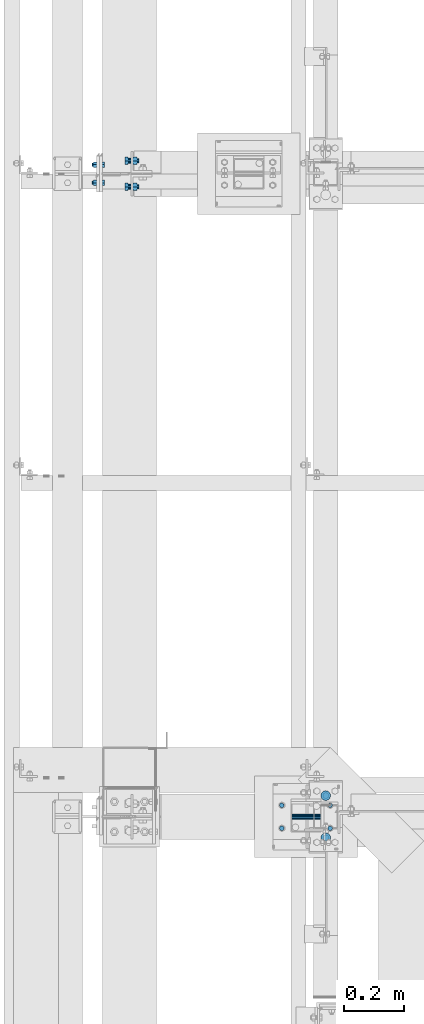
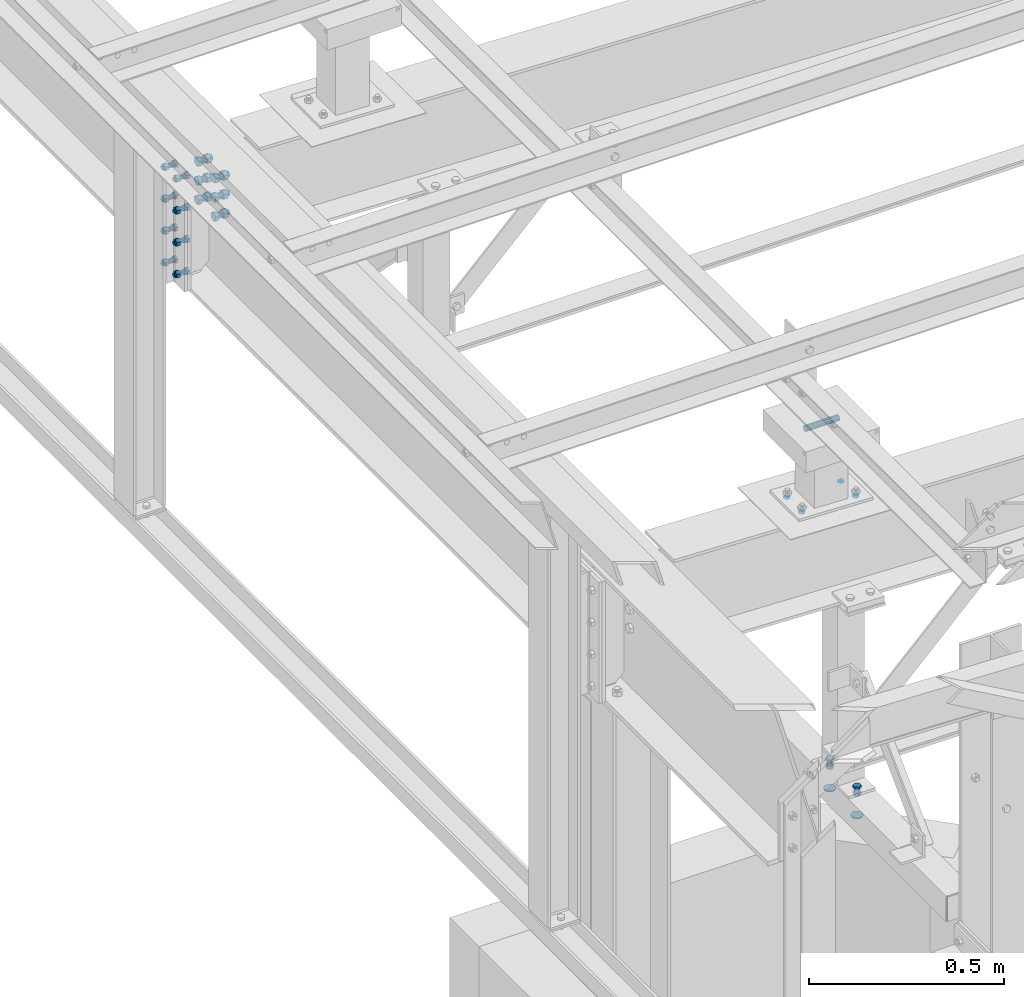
# One storey, part 4 of 3134: 7 mechanical fasteners, 6 elements without a shape of their own.
"""IFC2X3 building model written with IfcOpenShell, lengths in millimetres."""

from ifc_helpers import new_model, si_unit, frame, origin_with_axes, place, context, subcontext, project, spatial, faceted_brep, source, transform, mapped, material, type_object, element, aggregate, save


model = new_model("IFC2X3")

# Units and contexts
model_context = context("Model", 3, precision=1e-05, world=origin_with_axes())
body_context = subcontext(model_context, "Body", "Model", "MODEL_VIEW")
ifc_project = project(units=[si_unit("LENGTHUNIT", "METRE", prefix="MILLI"), si_unit("AREAUNIT", "SQUARE_METRE"), si_unit("VOLUMEUNIT", "CUBIC_METRE"), si_unit("MASSUNIT", "GRAM", prefix="KILO"), si_unit("TIMEUNIT", "SECOND"), si_unit("PLANEANGLEUNIT", "RADIAN"), si_unit("SOLIDANGLEUNIT", "STERADIAN"), si_unit("THERMODYNAMICTEMPERATUREUNIT", "DEGREE_CELSIUS"), si_unit("LUMINOUSINTENSITYUNIT", "LUMEN")], contexts=[model_context])

# Site, building, storey
site_placement = place(None, origin_with_axes())
site = spatial("IfcSite", under=ifc_project, at=site_placement, CompositionType="ELEMENT")
building_placement = place(site_placement, origin_with_axes())
building = spatial("IfcBuilding", under=site, at=building_placement, Name="Undefined", CompositionType="ELEMENT")
storey_placement = place(building_placement, origin_with_axes())
storey = spatial("IfcBuildingStorey", under=building, at=storey_placement, Name="Undefined", CompositionType="ELEMENT", Elevation=0.0)

# Assembly, mechanical fasteners
assembly_1_placement = place(storey_placement, origin_with_axes())
assembly_1 = element("IfcElementAssembly", 1, at=assembly_1_placement, inside=storey, AssemblyPlace="NOTDEFINED", PredefinedType="RIGID_FRAME")
ifc_material = material(Name="8.8")
mechanical_fastener_type = type_object("IfcMechanicalFastenerType", Name="Bolt assembly")
shared_shape_1 = source(origin_with_axes(), body_context, "Body", "Brep", [
    faceted_brep([(16.5, -3.0, 0.0), (14.289419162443, -3.0, 8.25000000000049), (8.24999999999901, -3.0, 14.2894191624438), (-1.70995436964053e-12, -3.0, 16.5), (-8.25000000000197, -3.0, 14.2894191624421), (-14.2894191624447, -3.0, 8.24999999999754), (-16.5, -3.0, -3.41990873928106e-12), (-14.2894191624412, -3.0, -8.25000000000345), (-8.24999999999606, -3.0, -14.2894191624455), (5.11154442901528e-12, -3.0, -16.5), (8.25000000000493, -3.0, -14.2894191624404), (14.2894191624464, -3.0, -8.24999999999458), (14.2894191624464, 0.1, -8.24999999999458), (8.25000000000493, 0.1, -14.2894191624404), (5.11154442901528e-12, 0.1, -16.5), (-8.24999999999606, 0.1, -14.2894191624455), (-14.2894191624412, 0.1, -8.25000000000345), (-16.5, 0.1, -3.41990873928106e-12), (-14.2894191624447, 0.1, 8.24999999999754), (-8.25000000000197, 0.1, 14.2894191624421), (-1.70995436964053e-12, 0.1, 16.5), (8.24999999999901, 0.1, 14.2894191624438), (14.289419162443, 0.1, 8.25000000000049), (16.5, 0.1, 0.0)], [[[0, 1, 2, 3, 4, 5, 6, 7, 8, 9, 10, 11]], [[12, 13, 14, 15, 16, 17, 18, 19, 20, 21, 22, 23]], [[0, 23, 22, 1]], [[1, 22, 21, 2]], [[2, 21, 20, 3]], [[3, 20, 19, 4]], [[4, 19, 18, 5]], [[5, 18, 17, 6]], [[6, 17, 16, 7]], [[7, 16, 15, 8]], [[8, 15, 14, 9]], [[9, 14, 13, 10]], [[10, 13, 12, 11]], [[11, 12, 23, 0]]]),
])
mechanical_fastener_1_placement = place(assembly_1_placement, frame((650.0, 11000.0, 3040.0), z_axis=(1.0, 0.0, 0.0), x_axis=(0.0, -1.0, 0.0)))
mechanical_fastener_1 = element("IfcMechanicalFastener", 2, at=mechanical_fastener_1_placement, type_object=mechanical_fastener_type, material=ifc_material, Name="Bolt assembly", NominalDiameter=30.0, NominalLength=3.0, context=body_context, shape_type="MappedRepresentation", body=[
    mapped(shared_shape_1, transform((0.0, 0.0, 0.0))),
    mapped(shared_shape_1, transform((140.0, 0.0, 0.0))),
])
shared_shape_2 = source(origin_with_axes(), body_context, "Body", "Brep", [
    faceted_brep([(10.9696551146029, -16.0, 0.0), (5.48482755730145, -16.0, 9.5), (-5.48482755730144, -16.0, 9.5), (-10.9696551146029, -16.0, 1.34339530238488e-15), (-5.48482755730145, -16.0, -9.5), (5.48482755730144, -16.0, -9.50000000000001), (5.48482755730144, -8.0, -9.50000000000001), (-5.48482755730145, -8.0, -9.5), (-10.9696551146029, -8.0, 1.34339530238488e-15), (-5.48482755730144, -8.0, 9.5), (5.48482755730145, -8.0, 9.5), (10.9696551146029, -8.0, 0.0), (6.0, -8.0, 0.0), (5.19615242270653, -8.0, 3.00000000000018), (2.99999999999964, -8.0, 5.19615242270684), (-6.21801588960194e-13, -8.0, 6.0), (-3.00000000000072, -8.0, 5.19615242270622), (-5.19615242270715, -8.0, 2.9999999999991), (-6.0, -8.0, -1.24360317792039e-12), (-5.19615242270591, -8.0, -3.00000000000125), (-2.99999999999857, -8.0, -5.19615242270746), (1.85874342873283e-12, -8.0, -6.0), (3.00000000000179, -8.0, -5.1961524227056), (5.19615242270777, -8.0, -2.99999999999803), (5.19615242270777, 17.0, -2.99999999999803), (3.00000000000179, 17.0, -5.1961524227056), (1.85874342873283e-12, 17.0, -6.0), (-2.99999999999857, 17.0, -5.19615242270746), (-5.19615242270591, 17.0, -3.00000000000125), (-6.0, 17.0, -1.24360317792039e-12), (-5.19615242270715, 17.0, 2.9999999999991), (-3.00000000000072, 17.0, 5.19615242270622), (-6.21801588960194e-13, 17.0, 6.0), (2.99999999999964, 17.0, 5.19615242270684), (5.19615242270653, 17.0, 3.00000000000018), (6.0, 17.0, 0.0), (10.9696551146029, 3.00000000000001, 0.0), (5.48482755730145, 3.00000000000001, 9.5), (-5.48482755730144, 3.00000000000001, 9.5), (-10.9696551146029, 3.00000000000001, 1.34339530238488e-15), (-5.48482755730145, 3.00000000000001, -9.5), (5.48482755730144, 3.00000000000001, -9.50000000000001), (5.48482755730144, 13.0, -9.50000000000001), (-5.48482755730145, 13.0, -9.5), (-10.9696551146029, 13.0, 1.34339530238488e-15), (-5.48482755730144, 13.0, 9.5), (5.48482755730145, 13.0, 9.5), (10.9696551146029, 13.0, 0.0)], [[[0, 1, 2, 3, 4, 5]], [[6, 7, 8, 9, 10, 11]], [[0, 11, 10, 1]], [[1, 10, 9, 2]], [[2, 9, 8, 3]], [[3, 8, 7, 4]], [[4, 7, 6, 5]], [[5, 6, 11, 0]], [[12, 13, 14, 15, 16, 17, 18, 19, 20, 21, 22, 23]], [[24, 25, 26, 27, 28, 29, 30, 31, 32, 33, 34, 35]], [[12, 35, 34, 13]], [[13, 34, 33, 14]], [[14, 33, 32, 15]], [[15, 32, 31, 16]], [[16, 31, 30, 17]], [[17, 30, 29, 18]], [[18, 29, 28, 19]], [[19, 28, 27, 20]], [[20, 27, 26, 21]], [[21, 26, 25, 22]], [[22, 25, 24, 23]], [[23, 24, 35, 12]], [[36, 37, 38, 39, 40, 41]], [[42, 43, 44, 45, 46, 47]], [[36, 47, 46, 37]], [[37, 46, 45, 38]], [[38, 45, 44, 39]], [[39, 44, 43, 40]], [[40, 43, 42, 41]], [[41, 42, 47, 36]]]),
    faceted_brep([(7.0, -7.9, 0.0), (6.06217782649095, -7.9, 3.50000000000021), (3.49999999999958, -7.9, 6.06217782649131), (-7.25435187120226e-13, -7.9, 7.0), (-3.50000000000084, -7.9, 6.06217782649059), (-6.06217782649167, -7.9, 3.49999999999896), (-7.0, -7.9, -1.45087037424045e-12), (-6.06217782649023, -7.9, -3.50000000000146), (-3.49999999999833, -7.9, -6.06217782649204), (2.1685340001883e-12, -7.9, -7.0), (3.50000000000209, -7.9, -6.06217782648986), (6.0621778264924, -7.9, -3.4999999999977), (6.0621778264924, 0.0999999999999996, -3.4999999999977), (3.50000000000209, 0.0999999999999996, -6.06217782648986), (2.1685340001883e-12, 0.0999999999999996, -7.0), (-3.49999999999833, 0.0999999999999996, -6.06217782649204), (-6.06217782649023, 0.0999999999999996, -3.50000000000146), (-7.0, 0.0999999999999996, -1.45087037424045e-12), (-6.06217782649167, 0.0999999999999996, 3.49999999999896), (-3.50000000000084, 0.0999999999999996, 6.06217782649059), (-7.25435187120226e-13, 0.0999999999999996, 7.0), (3.49999999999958, 0.0999999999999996, 6.06217782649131), (6.06217782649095, 0.0999999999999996, 3.50000000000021), (7.0, 0.0999999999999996, 0.0), (7.0, -0.1, 0.0), (6.06217782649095, -0.1, 3.50000000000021), (3.49999999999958, -0.1, 6.06217782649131), (-7.25435187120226e-13, -0.1, 7.0), (-3.50000000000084, -0.1, 6.06217782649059), (-6.06217782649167, -0.1, 3.49999999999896), (-7.0, -0.1, -1.45087037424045e-12), (-6.06217782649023, -0.1, -3.50000000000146), (-3.49999999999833, -0.1, -6.06217782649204), (2.1685340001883e-12, -0.1, -7.0), (3.50000000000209, -0.1, -6.06217782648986), (6.0621778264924, -0.1, -3.4999999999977), (6.0621778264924, 3.0, -3.4999999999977), (3.50000000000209, 3.0, -6.06217782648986), (2.1685340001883e-12, 3.0, -7.0), (-3.49999999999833, 3.0, -6.06217782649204), (-6.06217782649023, 3.0, -3.50000000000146), (-7.0, 3.0, -1.45087037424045e-12), (-6.06217782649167, 3.0, 3.49999999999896), (-3.50000000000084, 3.0, 6.06217782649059), (-7.25435187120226e-13, 3.0, 7.0), (3.49999999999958, 3.0, 6.06217782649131), (6.06217782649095, 3.0, 3.50000000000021), (7.0, 3.0, 0.0)], [[[0, 1, 2, 3, 4, 5, 6, 7, 8, 9, 10, 11]], [[12, 13, 14, 15, 16, 17, 18, 19, 20, 21, 22, 23]], [[0, 23, 22, 1]], [[1, 22, 21, 2]], [[2, 21, 20, 3]], [[3, 20, 19, 4]], [[4, 19, 18, 5]], [[5, 18, 17, 6]], [[6, 17, 16, 7]], [[7, 16, 15, 8]], [[8, 15, 14, 9]], [[9, 14, 13, 10]], [[10, 13, 12, 11]], [[11, 12, 23, 0]], [[24, 25, 26, 27, 28, 29, 30, 31, 32, 33, 34, 35]], [[36, 37, 38, 39, 40, 41, 42, 43, 44, 45, 46, 47]], [[24, 47, 46, 25]], [[25, 46, 45, 26]], [[26, 45, 44, 27]], [[27, 44, 43, 28]], [[28, 43, 42, 29]], [[29, 42, 41, 30]], [[30, 41, 40, 31]], [[31, 40, 39, 32]], [[32, 39, 38, 33]], [[33, 38, 37, 34]], [[34, 37, 36, 35]], [[35, 36, 47, 24]]]),
])
mechanical_fastener_2_placement = place(assembly_1_placement, frame((650.0, 11000.0, 3120.0), z_axis=(1.0, 0.0, 0.0), x_axis=(0.0, -1.0, 0.0)))
mechanical_fastener_2 = element("IfcMechanicalFastener", 3, at=mechanical_fastener_2_placement, type_object=mechanical_fastener_type, material=ifc_material, Name="Bolt assembly", NominalDiameter=12.0, NominalLength=25.0, context=body_context, shape_type="MappedRepresentation", body=[
    mapped(shared_shape_2, transform((0.0, 0.0, 0.0))),
    mapped(shared_shape_2, transform((140.0, 0.0, 0.0))),
])
aggregate(assembly_1, [mechanical_fastener_1, mechanical_fastener_2])

# Assembly, mechanical fastener
assembly_2_placement = place(storey_placement, origin_with_axes())
assembly_2 = element("IfcElementAssembly", 4, at=assembly_2_placement, inside=storey, Name="IPE400", AssemblyPlace="NOTDEFINED", PredefinedType="RIGID_FRAME")
shared_shape_3 = source(origin_with_axes(), body_context, "Body", "Brep", [
    faceted_brep([(10.9696551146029, -18.0, 0.0), (5.48482755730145, -18.0, 9.5), (-5.48482755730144, -18.0, 9.5), (-10.9696551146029, -18.0, 1.34339530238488e-15), (-5.48482755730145, -18.0, -9.5), (5.48482755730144, -18.0, -9.50000000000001), (5.48482755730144, -10.0, -9.50000000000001), (-5.48482755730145, -10.0, -9.5), (-10.9696551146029, -10.0, 1.34339530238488e-15), (-5.48482755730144, -10.0, 9.5), (5.48482755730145, -10.0, 9.5), (10.9696551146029, -10.0, 0.0), (6.0, -10.0, 0.0), (5.19615242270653, -10.0, 3.00000000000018), (2.99999999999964, -10.0, 5.19615242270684), (-6.21801588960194e-13, -10.0, 6.0), (-3.00000000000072, -10.0, 5.19615242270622), (-5.19615242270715, -10.0, 2.9999999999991), (-6.0, -10.0, -1.24360317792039e-12), (-5.19615242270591, -10.0, -3.00000000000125), (-2.99999999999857, -10.0, -5.19615242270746), (1.85874342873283e-12, -10.0, -6.0), (3.00000000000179, -10.0, -5.1961524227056), (5.19615242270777, -10.0, -2.99999999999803), (5.19615242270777, 24.9999999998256, -2.99999999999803), (3.00000000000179, 24.9999999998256, -5.1961524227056), (1.85874342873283e-12, 24.9999999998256, -6.0), (-2.99999999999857, 24.9999999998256, -5.19615242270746), (-5.19615242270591, 24.9999999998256, -3.00000000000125), (-6.0, 24.9999999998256, -1.24360317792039e-12), (-5.19615242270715, 24.9999999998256, 2.9999999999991), (-3.00000000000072, 24.9999999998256, 5.19615242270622), (-6.21801588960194e-13, 24.9999999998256, 6.0), (2.99999999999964, 24.9999999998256, 5.19615242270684), (5.19615242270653, 24.9999999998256, 3.00000000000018), (6.0, 24.9999999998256, 0.0), (10.9696551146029, 10.0, 0.0), (5.48482755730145, 10.0, 9.5), (-5.48482755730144, 10.0, 9.5), (-10.9696551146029, 10.0, 1.34339530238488e-15), (-5.48482755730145, 10.0, -9.5), (5.48482755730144, 10.0, -9.50000000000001), (5.48482755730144, 20.0, -9.50000000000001), (-5.48482755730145, 20.0, -9.5), (-10.9696551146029, 20.0, 1.34339530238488e-15), (-5.48482755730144, 20.0, 9.5), (5.48482755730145, 20.0, 9.5), (10.9696551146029, 20.0, 0.0)], [[[0, 1, 2, 3, 4, 5]], [[6, 7, 8, 9, 10, 11]], [[0, 11, 10, 1]], [[1, 10, 9, 2]], [[2, 9, 8, 3]], [[3, 8, 7, 4]], [[4, 7, 6, 5]], [[5, 6, 11, 0]], [[12, 13, 14, 15, 16, 17, 18, 19, 20, 21, 22, 23]], [[24, 25, 26, 27, 28, 29, 30, 31, 32, 33, 34, 35]], [[12, 35, 34, 13]], [[13, 34, 33, 14]], [[14, 33, 32, 15]], [[15, 32, 31, 16]], [[16, 31, 30, 17]], [[17, 30, 29, 18]], [[18, 29, 28, 19]], [[19, 28, 27, 20]], [[20, 27, 26, 21]], [[21, 26, 25, 22]], [[22, 25, 24, 23]], [[23, 24, 35, 12]], [[36, 37, 38, 39, 40, 41]], [[42, 43, 44, 45, 46, 47]], [[36, 47, 46, 37]], [[37, 46, 45, 38]], [[38, 45, 44, 39]], [[39, 44, 43, 40]], [[40, 43, 42, 41]], [[41, 42, 47, 36]]]),
    faceted_brep([(7.0, -0.1, 0.0), (6.06217782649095, -0.1, 3.50000000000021), (3.49999999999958, -0.1, 6.06217782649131), (-7.25435187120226e-13, -0.1, 7.0), (-3.50000000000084, -0.1, 6.06217782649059), (-6.06217782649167, -0.1, 3.49999999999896), (-7.0, -0.1, -1.45087037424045e-12), (-6.06217782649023, -0.1, -3.50000000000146), (-3.49999999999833, -0.1, -6.06217782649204), (2.1685340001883e-12, -0.1, -7.0), (3.50000000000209, -0.1, -6.06217782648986), (6.0621778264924, -0.1, -3.4999999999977), (6.0621778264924, 10.0, -3.4999999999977), (3.50000000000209, 10.0, -6.06217782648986), (2.1685340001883e-12, 10.0, -7.0), (-3.49999999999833, 10.0, -6.06217782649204), (-6.06217782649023, 10.0, -3.50000000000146), (-7.0, 10.0, -1.45087037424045e-12), (-6.06217782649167, 10.0, 3.49999999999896), (-3.50000000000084, 10.0, 6.06217782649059), (-7.25435187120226e-13, 10.0, 7.0), (3.49999999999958, 10.0, 6.06217782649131), (6.06217782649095, 10.0, 3.50000000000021), (7.0, 10.0, 0.0), (7.0, -9.89999913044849, 0.0), (6.06217782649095, -9.89999913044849, 3.50000000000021), (3.49999999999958, -9.89999913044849, 6.06217782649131), (-7.25435187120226e-13, -9.89999913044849, 7.0), (-3.50000000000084, -9.89999913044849, 6.06217782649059), (-6.06217782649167, -9.89999913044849, 3.49999999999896), (-7.0, -9.89999913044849, -1.45087037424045e-12), (-6.06217782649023, -9.89999913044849, -3.50000000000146), (-3.49999999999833, -9.89999913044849, -6.06217782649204), (2.1685340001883e-12, -9.89999913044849, -7.0), (3.50000000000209, -9.89999913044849, -6.06217782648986), (6.0621778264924, -9.89999913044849, -3.4999999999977), (6.0621778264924, 0.0999999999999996, -3.4999999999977), (3.50000000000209, 0.0999999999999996, -6.06217782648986), (2.1685340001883e-12, 0.0999999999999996, -7.0), (-3.49999999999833, 0.0999999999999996, -6.06217782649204), (-6.06217782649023, 0.0999999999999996, -3.50000000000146), (-7.0, 0.0999999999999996, -1.45087037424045e-12), (-6.06217782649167, 0.0999999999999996, 3.49999999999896), (-3.50000000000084, 0.0999999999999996, 6.06217782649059), (-7.25435187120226e-13, 0.0999999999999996, 7.0), (3.49999999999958, 0.0999999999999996, 6.06217782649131), (6.06217782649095, 0.0999999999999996, 3.50000000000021), (7.0, 0.0999999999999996, 0.0)], [[[0, 1, 2, 3, 4, 5, 6, 7, 8, 9, 10, 11]], [[12, 13, 14, 15, 16, 17, 18, 19, 20, 21, 22, 23]], [[0, 23, 22, 1]], [[1, 22, 21, 2]], [[2, 21, 20, 3]], [[3, 20, 19, 4]], [[4, 19, 18, 5]], [[5, 18, 17, 6]], [[6, 17, 16, 7]], [[7, 16, 15, 8]], [[8, 15, 14, 9]], [[9, 14, 13, 10]], [[10, 13, 12, 11]], [[11, 12, 23, 0]], [[24, 25, 26, 27, 28, 29, 30, 31, 32, 33, 34, 35]], [[36, 37, 38, 39, 40, 41, 42, 43, 44, 45, 46, 47]], [[24, 47, 46, 25]], [[25, 46, 45, 26]], [[26, 45, 44, 27]], [[27, 44, 43, 28]], [[28, 43, 42, 29]], [[29, 42, 41, 30]], [[30, 41, 40, 31]], [[31, 40, 39, 32]], [[32, 39, 38, 33]], [[33, 38, 37, 34]], [[34, 37, 36, 35]], [[35, 36, 47, 24]]]),
])
mechanical_fastener_3_placement = place(assembly_2_placement, frame((-100.0, 13060.0, 3990.0), z_axis=(0.0, 1.0, 0.0), x_axis=(0.0, 0.0, -1.0)))
mechanical_fastener_3 = element("IfcMechanicalFastener", 5, at=mechanical_fastener_3_placement, type_object=mechanical_fastener_type, material=ifc_material, Name="Bolt assembly", NominalDiameter=12.0, NominalLength=35.0, context=body_context, shape_type="MappedRepresentation", body=[
    mapped(shared_shape_3, transform((0.0, 4.54747350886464e-13, -30.0000000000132))),
    mapped(shared_shape_3, transform((100.0, 0.0, -30.0))),
    mapped(shared_shape_3, transform((200.0, 0.0, -30.0))),
    mapped(shared_shape_3, transform((300.0, 0.0, -30.0))),
    mapped(shared_shape_3, transform((0.0, 4.54747350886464e-13, 30.0000000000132))),
    mapped(shared_shape_3, transform((100.0, 0.0, 30.0))),
    mapped(shared_shape_3, transform((200.0, 0.0, 30.0))),
    mapped(shared_shape_3, transform((300.0, 0.0, 30.0))),
])
aggregate(assembly_2, [mechanical_fastener_3])

assembly_3_placement = place(storey_placement, origin_with_axes())
assembly_3 = element("IfcElementAssembly", 6, at=assembly_3_placement, inside=storey, AssemblyPlace="NOTDEFINED", PredefinedType="RIGID_FRAME")
shared_shape_4 = source(origin_with_axes(), body_context, "Body", "Brep", [
    faceted_brep([(13.856406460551, -18.5936482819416, 0.0), (6.92820323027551, -18.5936482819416, 12.0), (-6.92820323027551, -18.5936482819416, 12.0), (-13.856406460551, -18.5936482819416, 1.69692038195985e-15), (-6.92820323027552, -18.5936482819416, -12.0), (6.9282032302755, -18.5936482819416, -12.0), (6.9282032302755, -8.59364828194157, -12.0), (-6.92820323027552, -8.59364828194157, -12.0), (-13.856406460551, -8.59364828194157, 1.69692038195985e-15), (-6.92820323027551, -8.59364828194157, 12.0), (6.92820323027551, -8.59364828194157, 12.0), (13.856406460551, -8.59364828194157, 0.0), (8.0, -8.59364828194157, 0.0), (6.92820323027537, -8.59364828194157, 4.00000000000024), (3.99999999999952, -8.59364828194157, 6.92820323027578), (-8.29068785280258e-13, -8.59364828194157, 8.0), (-4.00000000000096, -8.59364828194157, 6.92820323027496), (-6.9282032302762, -8.59364828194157, 3.99999999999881), (-8.0, -8.59364828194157, -1.65813757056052e-12), (-6.92820323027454, -8.59364828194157, -4.00000000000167), (-3.99999999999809, -8.59364828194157, -6.92820323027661), (2.47832457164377e-12, -8.59364828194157, -8.0), (4.00000000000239, -8.59364828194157, -6.92820323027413), (6.92820323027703, -8.59364828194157, -3.99999999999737), (6.92820323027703, 26.4063517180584, -3.99999999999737), (4.00000000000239, 26.4063517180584, -6.92820323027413), (2.47832457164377e-12, 26.4063517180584, -8.0), (-3.99999999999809, 26.4063517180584, -6.92820323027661), (-6.92820323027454, 26.4063517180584, -4.00000000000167), (-8.0, 26.4063517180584, -1.65813757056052e-12), (-6.9282032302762, 26.4063517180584, 3.99999999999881), (-4.00000000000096, 26.4063517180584, 6.92820323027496), (-8.29068785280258e-13, 26.4063517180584, 8.0), (3.99999999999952, 26.4063517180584, 6.92820323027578), (6.92820323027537, 26.4063517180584, 4.00000000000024), (8.0, 26.4063517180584, 0.0), (13.856406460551, 7.0, 0.0), (6.92820323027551, 7.0, 12.0), (-6.92820323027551, 7.0, 12.0), (-13.856406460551, 7.0, 1.69692038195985e-15), (-6.92820323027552, 7.0, -12.0), (6.9282032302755, 7.0, -12.0), (6.9282032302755, 20.0, -12.0), (-6.92820323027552, 20.0, -12.0), (-13.856406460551, 20.0, 1.69692038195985e-15), (-6.92820323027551, 20.0, 12.0), (6.92820323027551, 20.0, 12.0), (13.856406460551, 20.0, 0.0)], [[[0, 1, 2, 3, 4, 5]], [[6, 7, 8, 9, 10, 11]], [[0, 11, 10, 1]], [[1, 10, 9, 2]], [[2, 9, 8, 3]], [[3, 8, 7, 4]], [[4, 7, 6, 5]], [[5, 6, 11, 0]], [[12, 13, 14, 15, 16, 17, 18, 19, 20, 21, 22, 23]], [[24, 25, 26, 27, 28, 29, 30, 31, 32, 33, 34, 35]], [[12, 35, 34, 13]], [[13, 34, 33, 14]], [[14, 33, 32, 15]], [[15, 32, 31, 16]], [[16, 31, 30, 17]], [[17, 30, 29, 18]], [[18, 29, 28, 19]], [[19, 28, 27, 20]], [[20, 27, 26, 21]], [[21, 26, 25, 22]], [[22, 25, 24, 23]], [[23, 24, 35, 12]], [[36, 37, 38, 39, 40, 41]], [[42, 43, 44, 45, 46, 47]], [[36, 47, 46, 37]], [[37, 46, 45, 38]], [[38, 45, 44, 39]], [[39, 44, 43, 40]], [[40, 43, 42, 41]], [[41, 42, 47, 36]]]),
    faceted_brep([(9.0, -8.49364828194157, 0.0), (7.79422863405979, -8.49364828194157, 4.50000000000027), (4.49999999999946, -8.49364828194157, 7.79422863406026), (-9.3270238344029e-13, -8.49364828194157, 9.0), (-4.50000000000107, -8.49364828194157, 7.79422863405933), (-7.79422863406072, -8.49364828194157, 4.49999999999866), (-9.0, -8.49364828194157, -1.86540476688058e-12), (-7.79422863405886, -8.49364828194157, -4.50000000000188), (-4.49999999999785, -8.49364828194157, -7.79422863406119), (2.78811514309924e-12, -8.49364828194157, -9.0), (4.50000000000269, -8.49364828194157, -7.7942286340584), (7.79422863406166, -8.49364828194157, -4.49999999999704), (7.79422863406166, 0.10635209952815, -4.49999999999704), (4.50000000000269, 0.10635209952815, -7.7942286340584), (2.78811514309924e-12, 0.10635209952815, -9.0), (-4.49999999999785, 0.10635209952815, -7.79422863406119), (-7.79422863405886, 0.10635209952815, -4.50000000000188), (-9.0, 0.10635209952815, -1.86540476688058e-12), (-7.79422863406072, 0.10635209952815, 4.49999999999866), (-4.50000000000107, 0.10635209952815, 7.79422863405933), (-9.3270238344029e-13, 0.10635209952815, 9.0), (4.49999999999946, 0.10635209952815, 7.79422863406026), (7.79422863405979, 0.10635209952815, 4.50000000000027), (9.0, 0.10635209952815, 0.0), (9.0, -0.1, 0.0), (7.79422863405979, -0.1, 4.50000000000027), (4.49999999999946, -0.1, 7.79422863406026), (-9.3270238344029e-13, -0.1, 9.0), (-4.50000000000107, -0.1, 7.79422863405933), (-7.79422863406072, -0.1, 4.49999999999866), (-9.0, -0.1, -1.86540476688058e-12), (-7.79422863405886, -0.1, -4.50000000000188), (-4.49999999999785, -0.1, -7.79422863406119), (2.78811514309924e-12, -0.1, -9.0), (4.50000000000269, -0.1, -7.7942286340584), (7.79422863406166, -0.1, -4.49999999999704), (7.79422863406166, 7.0, -4.49999999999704), (4.50000000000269, 7.0, -7.7942286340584), (2.78811514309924e-12, 7.0, -9.0), (-4.49999999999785, 7.0, -7.79422863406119), (-7.79422863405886, 7.0, -4.50000000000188), (-9.0, 7.0, -1.86540476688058e-12), (-7.79422863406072, 7.0, 4.49999999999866), (-4.50000000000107, 7.0, 7.79422863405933), (-9.3270238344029e-13, 7.0, 9.0), (4.49999999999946, 7.0, 7.79422863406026), (7.79422863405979, 7.0, 4.50000000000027), (9.0, 7.0, 0.0)], [[[0, 1, 2, 3, 4, 5, 6, 7, 8, 9, 10, 11]], [[12, 13, 14, 15, 16, 17, 18, 19, 20, 21, 22, 23]], [[0, 23, 22, 1]], [[1, 22, 21, 2]], [[2, 21, 20, 3]], [[3, 20, 19, 4]], [[4, 19, 18, 5]], [[5, 18, 17, 6]], [[6, 17, 16, 7]], [[7, 16, 15, 8]], [[8, 15, 14, 9]], [[9, 14, 13, 10]], [[10, 13, 12, 11]], [[11, 12, 23, 0]], [[24, 25, 26, 27, 28, 29, 30, 31, 32, 33, 34, 35]], [[36, 37, 38, 39, 40, 41, 42, 43, 44, 45, 46, 47]], [[24, 47, 46, 25]], [[25, 46, 45, 26]], [[26, 45, 44, 27]], [[27, 44, 43, 28]], [[28, 43, 42, 29]], [[29, 42, 41, 30]], [[30, 41, 40, 31]], [[31, 40, 39, 32]], [[32, 39, 38, 33]], [[33, 38, 37, 34]], [[34, 37, 36, 35]], [[35, 36, 47, 24]]]),
])
mechanical_fastener_4_placement = place(assembly_3_placement, frame((4.29364809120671, 13103.04, 3841.86727512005), z_axis=(0.0, 1.0, 0.0), x_axis=(0.0, 0.0, 1.0)))
mechanical_fastener_4 = element("IfcMechanicalFastener", 7, at=mechanical_fastener_4_placement, type_object=mechanical_fastener_type, material=ifc_material, Name="Bolt assembly", NominalDiameter=16.0, NominalLength=35.0, context=body_context, shape_type="MappedRepresentation", body=[
    mapped(shared_shape_4, transform((0.0, 0.0, 0.0))),
    mapped(shared_shape_4, transform((59.9999999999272, 0.0, 5.40239852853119e-10))),
    mapped(shared_shape_4, transform((120.0, 0.0, 0.0))),
])
aggregate(assembly_3, [mechanical_fastener_4])

assembly_4_placement = place(storey_placement, origin_with_axes())
assembly_4 = element("IfcElementAssembly", 8, at=assembly_4_placement, inside=storey, AssemblyPlace="NOTDEFINED", PredefinedType="RIGID_FRAME")
mechanical_fastener_5_placement = place(assembly_4_placement, frame((4.29364809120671, 13016.96, 3841.86727512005), z_axis=(0.0, 1.0, 0.0), x_axis=(0.0, 0.0, 1.0)))
mechanical_fastener_5 = element("IfcMechanicalFastener", 9, at=mechanical_fastener_5_placement, type_object=mechanical_fastener_type, material=ifc_material, Name="Bolt assembly", NominalDiameter=16.0, NominalLength=35.0, context=body_context, shape_type="MappedRepresentation", body=[
    mapped(shared_shape_4, transform((0.0, 0.0, 0.0))),
    mapped(shared_shape_4, transform((59.9999999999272, 0.0, 5.40239852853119e-10))),
    mapped(shared_shape_4, transform((120.0, 0.0, 0.0))),
])
aggregate(assembly_4, [mechanical_fastener_5])

assembly_5_placement = place(storey_placement, origin_with_axes())
assembly_5 = element("IfcElementAssembly", 10, at=assembly_5_placement, inside=storey, AssemblyPlace="NOTDEFINED", PredefinedType="RIGID_FRAME")
shared_shape_5 = source(origin_with_axes(), body_context, "Body", "Brep", [
    faceted_brep([(7.0, 13.0000253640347, 0.0), (6.06217782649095, 13.0000253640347, 3.50000000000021), (3.49999999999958, 13.0000253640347, 6.06217782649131), (-7.25435187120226e-13, 13.0000253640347, 7.0), (-3.50000000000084, 13.0000253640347, 6.06217782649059), (-6.06217782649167, 13.0000253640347, 3.49999999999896), (-7.0, 13.0000253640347, -1.45087037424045e-12), (-6.06217782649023, 13.0000253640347, -3.50000000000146), (-3.49999999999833, 13.0000253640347, -6.06217782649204), (2.1685340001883e-12, 13.0000253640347, -7.0), (3.50000000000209, 13.0000253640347, -6.06217782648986), (6.0621778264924, 13.0000253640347, -3.4999999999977), (6.0621778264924, 15.0999999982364, -3.4999999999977), (3.50000000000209, 15.0999999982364, -6.06217782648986), (2.1685340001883e-12, 15.0999999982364, -7.0), (-3.49999999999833, 15.0999999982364, -6.06217782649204), (-6.06217782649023, 15.0999999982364, -3.50000000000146), (-7.0, 15.0999999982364, -1.45087037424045e-12), (-6.06217782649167, 15.0999999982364, 3.49999999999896), (-3.50000000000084, 15.0999999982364, 6.06217782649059), (-7.25435187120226e-13, 15.0999999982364, 7.0), (3.49999999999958, 15.0999999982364, 6.06217782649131), (6.06217782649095, 15.0999999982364, 3.50000000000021), (7.0, 15.0999999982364, 0.0)], [[[0, 1, 2, 3, 4, 5, 6, 7, 8, 9, 10, 11]], [[12, 13, 14, 15, 16, 17, 18, 19, 20, 21, 22, 23]], [[0, 23, 22, 1]], [[1, 22, 21, 2]], [[2, 21, 20, 3]], [[3, 20, 19, 4]], [[4, 19, 18, 5]], [[5, 18, 17, 6]], [[6, 17, 16, 7]], [[7, 16, 15, 8]], [[8, 15, 14, 9]], [[9, 14, 13, 10]], [[10, 13, 12, 11]], [[11, 12, 23, 0]]]),
])
mechanical_fastener_6_placement = place(assembly_5_placement, frame((584.193186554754, 10967.9999999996, 4006.54000668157), z_axis=(-0.999387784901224, 0.0, 0.0349865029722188), x_axis=(0.0, -1.0, 0.0)))
mechanical_fastener_6 = element("IfcMechanicalFastener", 11, at=mechanical_fastener_6_placement, type_object=mechanical_fastener_type, material=ifc_material, Name="Bolt assembly", NominalDiameter=12.0, NominalLength=2.0, context=body_context, shape_type="MappedRepresentation", body=[
    mapped(shared_shape_5, transform((0.0, -5.32963895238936e-10, -79.9999999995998))),
    mapped(shared_shape_5, transform((76.0, -5.32963895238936e-10, -79.9999999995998))),
    mapped(shared_shape_5, transform((0.0, 5.3114490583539e-10, 79.9999999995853))),
    mapped(shared_shape_5, transform((76.0, 5.3114490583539e-10, 79.9999999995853))),
])
aggregate(assembly_5, [mechanical_fastener_6])

assembly_6_placement = place(storey_placement, origin_with_axes())
assembly_6 = element("IfcElementAssembly", 12, at=assembly_6_placement, inside=storey, AssemblyPlace="NOTDEFINED", PredefinedType="RIGID_FRAME")
shared_shape_6 = source(origin_with_axes(), body_context, "Body", "Brep", [
    faceted_brep([(9.0, -50.0, 0.0), (7.79422863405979, -50.0, 4.50000000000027), (4.49999999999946, -50.0, 7.79422863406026), (-9.3270238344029e-13, -50.0, 9.0), (-4.50000000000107, -50.0, 7.79422863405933), (-7.79422863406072, -50.0, 4.49999999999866), (-9.0, -50.0, -1.86540476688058e-12), (-7.79422863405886, -50.0, -4.50000000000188), (-4.49999999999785, -50.0, -7.79422863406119), (2.78811514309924e-12, -50.0, -9.0), (4.50000000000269, -50.0, -7.7942286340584), (7.79422863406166, -50.0, -4.49999999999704), (7.79422863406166, 50.1, -4.49999999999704), (4.50000000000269, 50.1, -7.7942286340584), (2.78811514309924e-12, 50.1, -9.0), (-4.49999999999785, 50.1, -7.79422863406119), (-7.79422863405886, 50.1, -4.50000000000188), (-9.0, 50.1, -1.86540476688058e-12), (-7.79422863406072, 50.1, 4.49999999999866), (-4.50000000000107, 50.1, 7.79422863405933), (-9.3270238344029e-13, 50.1, 9.0), (4.49999999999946, 50.1, 7.79422863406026), (7.79422863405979, 50.1, 4.50000000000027), (9.0, 50.1, 0.0)], [[[0, 1, 2, 3, 4, 5, 6, 7, 8, 9, 10, 11]], [[12, 13, 14, 15, 16, 17, 18, 19, 20, 21, 22, 23]], [[0, 23, 22, 1]], [[1, 22, 21, 2]], [[2, 21, 20, 3]], [[3, 20, 19, 4]], [[4, 19, 18, 5]], [[5, 18, 17, 6]], [[6, 17, 16, 7]], [[7, 16, 15, 8]], [[8, 15, 14, 9]], [[9, 14, 13, 10]], [[10, 13, 12, 11]], [[11, 12, 23, 0]]]),
])
mechanical_fastener_7_placement = place(assembly_6_placement, frame((585.0, 10930.0, 4251.0), z_axis=(0.0, 1.0, 0.0), x_axis=(0.0, 0.0, 1.0)))
mechanical_fastener_7 = element("IfcMechanicalFastener", 13, at=mechanical_fastener_7_placement, type_object=mechanical_fastener_type, material=ifc_material, Name="Bolt assembly", NominalDiameter=16.0, NominalLength=100.0, context=body_context, shape_type="MappedRepresentation", body=[
    mapped(shared_shape_6, transform((0.0, 0.0, 0.0))),
])
aggregate(assembly_6, [mechanical_fastener_7])

save(model, "model.ifc")
